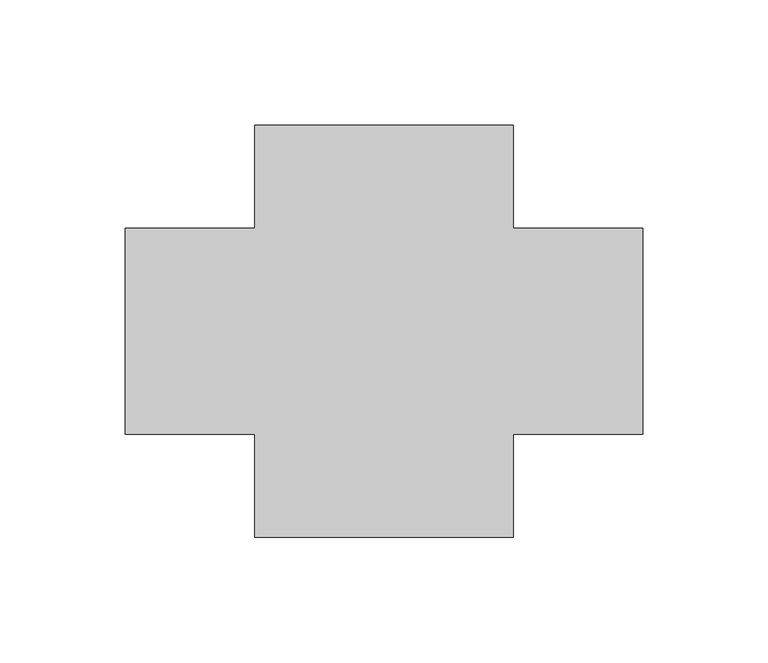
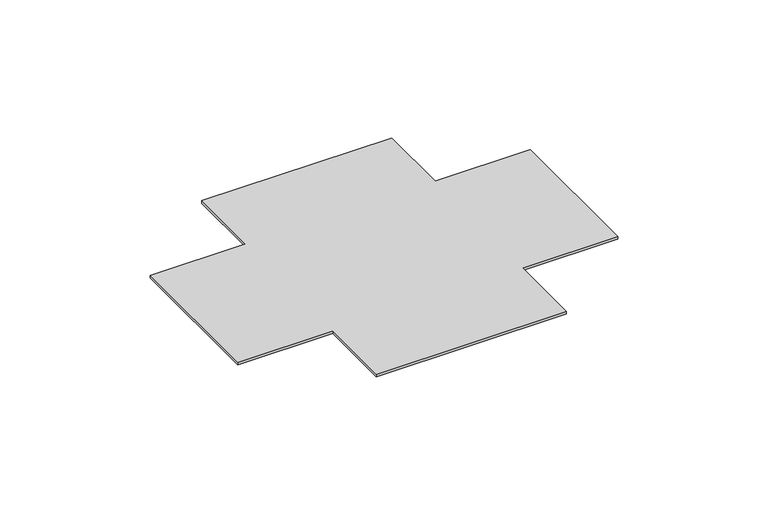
"""IFC4 building model written with IfcOpenShell, lengths in millimetres: cable carrier fitting geometry, КНС_ПластинаМонтажная_DKC : для коробок 240х190мм."""

from ifc_helpers import new_model, si_unit, origin, origin_with_axes, place, context, project, spatial, polyline, outline, extrude, source, transform, mapped, element, save


def cable_carrier_fitting_80cae445(model_context):
    return source(origin(), model_context, "Body", "SweptSolid", [
        extrude(outline(polyline([(51.5, 82.0), (51.5, 41.0), (103.0, 41.0), (103.0, -41.0), (51.5, -41.0), (51.5, -82.0), (-51.5, -82.0), (-51.5, -41.0), (-103.0, -41.0), (-103.0, 41.0), (-51.5, 41.0), (-51.5, 82.0), (51.5, 82.0)])), origin_with_axes(), (0.0, 0.0, 1.0), 1.5),
    ])


if __name__ == "__main__":
    model = new_model("IFC4")
    model_context = context("Model", 3, world=origin())
    ifc_project = project(units=[si_unit("LENGTHUNIT", "METRE", prefix="MILLI")], contexts=[model_context])
    site = spatial("IfcSite", under=ifc_project)
    building = spatial("IfcBuilding", under=site)
    placement = place(None, origin())
    cable_carrier_fitting_shape = cable_carrier_fitting_80cae445(model_context)
    element("IfcCableCarrierFitting", 1, ObjectType="КНС_ПластинаМонтажная_DKC : для коробок 240х190мм", at=placement, inside=building, context=model_context, shape_type="MappedRepresentation", body=[
        mapped(cable_carrier_fitting_shape, transform((0.0, 0.0, 0.0), x_axis=(1.0, 0.0, 0.0), y_axis=(0.0, 1.0, 0.0), z_axis=(0.0, 0.0, 1.0))),
    ])
    save(model, "model.ifc")
